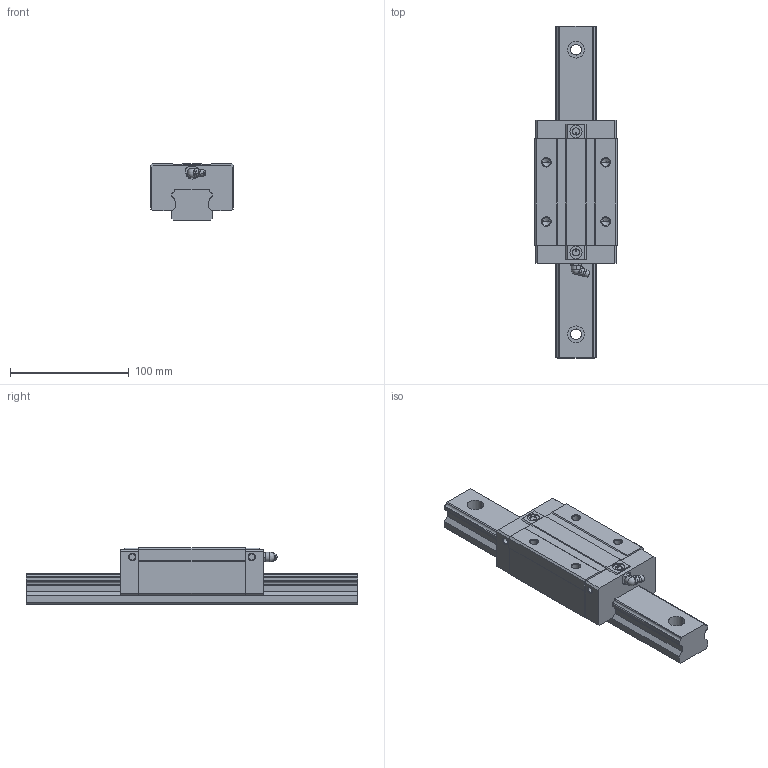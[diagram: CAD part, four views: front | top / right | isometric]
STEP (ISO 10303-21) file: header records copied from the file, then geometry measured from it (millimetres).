
FILE_DESCRIPTION((''),'1');
FILE_NAME(' ',' ',(''),(''),'ACIS Interop R16','Kubotek KeyCreator V6.5.2 (0407)',' ');
FILE_SCHEMA(('CONFIG_CONTROL_DESIGN'));
Length unit declared in the file: millimetre
Products named in the file (3): 1; 2; 3
Bounding box: 70 x 280 x 48 mm (x, y, z)
Volume: 477815.8 mm3; surface area: 76083.4 mm2
Topology: 3 solids, 3 shells, 232 faces, 607 edges, 391 vertices
Faces by surface type: plane 113, cylinder 74, cone 26, torus 10, sphere 7, bspline 2
Entity records: 7370 total; most frequent: CARTESIAN_POINT 1417, DIRECTION 1260, ORIENTED_EDGE 1186, EDGE_CURVE 593, AXIS2_PLACEMENT_3D 454, VERTEX_POINT 391, LINE 352, VECTOR 352
